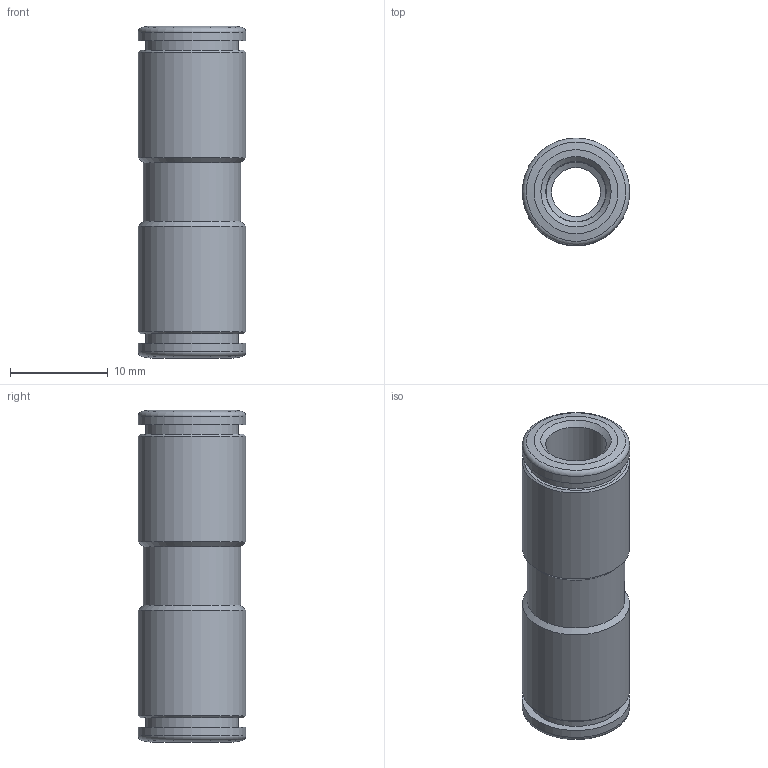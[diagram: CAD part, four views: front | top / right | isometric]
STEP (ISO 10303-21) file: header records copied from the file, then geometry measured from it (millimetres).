
FILE_DESCRIPTION(('Bauteilbeschreibung','HiCAD-Model','HiCAD-STEP-TRANSLATION','Bauteilbeschreibung'),'2;1');
FILE_NAME('B:/ABGLEICH/ZEICHNUNGEN/STEP FÜR INTERNET/STEP/200303_IPSO_03_6_6.STP','2011-07-18T11:00:39+00:00',('Konstrukteur'),('Konstrukteur Firma GmbH'),' HiCAD neXt 2008, Step 3.1.1401.2J ','HiCAD neXt 2008','confidential');
FILE_SCHEMA(('AUTOMOTIVE_DESIGN { 1 2 10303 214 0 1 1 1 }'));
Length unit declared in the file: millimetre
Products named in the file (4): A00303_IPSO_03_6_6; DR6_1_NEU; DR6010NEU; R200303_N
Assembly tree (3 placements, depth 2):
  A00303_IPSO_03_6_6
    DR6_1_NEU
    DR6010NEU
    R200303_N
Bounding box: 11 x 11 x 34 mm (x, y, z)
Volume: 1706.8 mm3; surface area: 2941.6 mm2
Topology: 3 solids, 3 shells, 50 faces, 96 edges, 56 vertices
Faces by surface type: cone 20, cylinder 18, plane 10, torus 2
Full cylindrical faces by diameter (mm): 5 x1, 6.1 x2, 6.2 x2, 8.3 x2, 9 x2, 9.5 x2, 9.6 x2, 10 x1, 11 x4
Entity records: 1371 total; most frequent: DIRECTION 212, CARTESIAN_POINT 156, AXIS2_PLACEMENT_3D 106, EDGE_LOOP 100, ORIENTED_EDGE 100, COLOUR_RGB 53, PRESENTATION_STYLE_ASSIGNMENT 53, ADVANCED_FACE 50
